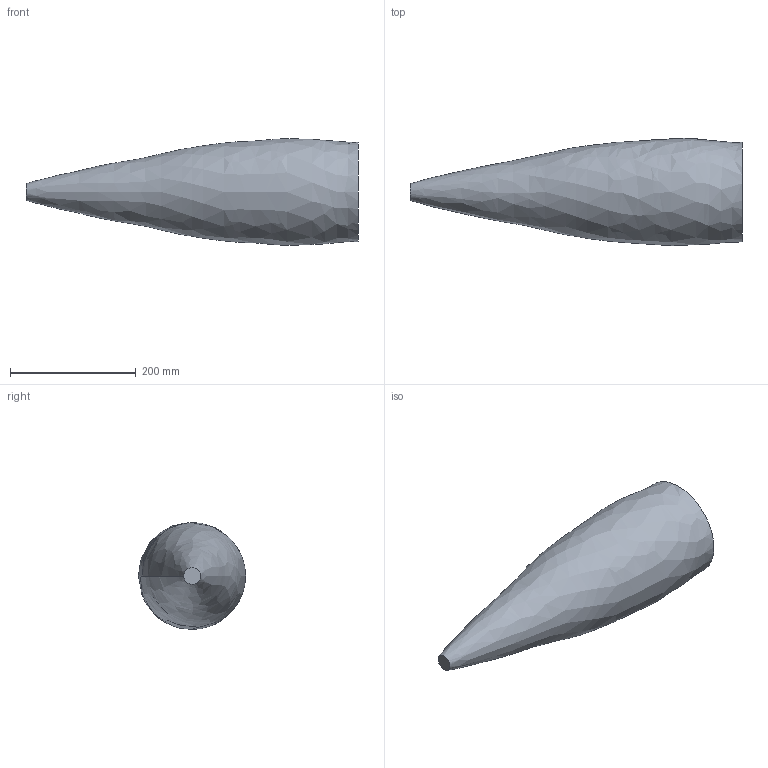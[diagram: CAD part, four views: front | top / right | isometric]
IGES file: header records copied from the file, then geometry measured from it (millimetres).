
Global section: file name: No Iges File Name specified; native system: AutoDesk Inventor R6.1; preprocessor: AutoDesk Inventor Iges Exporter R6.1; author: No Author specified; organization: No Organization specified; date: 20050811.082248; units: millimetre
Bounding box: 528 x 170.5 x 169.93 mm (x, y, z)
Surface area: 209037.2 mm2 (no closed solid volume)
Topology: 0 solids, 0 shells, 3 faces, 7 edges, 4 vertices
Faces by surface type: bspline 1, revolution 1, plane 1
